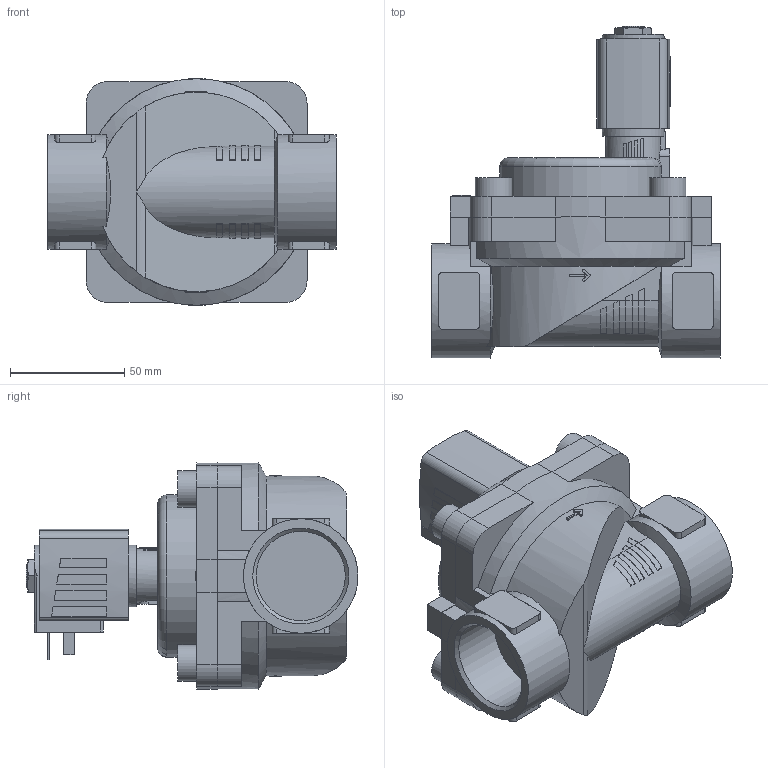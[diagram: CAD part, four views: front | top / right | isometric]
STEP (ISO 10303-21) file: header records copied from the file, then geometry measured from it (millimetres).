
FILE_DESCRIPTION(/* description */ ('STEP AP214'),/* implementation_level */ '2;1');
FILE_NAME(/* name */ '6281-334957-2_2-Way_Solenoid_Valve__Servo-assisted__General_Purpose',/* time_stamp */ '2024-07-02T10:52:22+02:00',/* author */ ('License CC BY-ND 4.0'),/* organization */ ('CADENAS'),/* preprocessor_version */ 'ST-DEVELOPER v19.3',/* originating_system */ 'PARTsolutions',/* authorisation */ ' ');
FILE_SCHEMA (('AUTOMOTIVE_DESIGN {1 0 10303 214 3 1 1}'));
Length unit declared in the file: millimetre
Products named in the file (4): 6281-334957-2/2-Way Solenoid Valve, Servo-assisted, General Purpose; 5281ev400MS2/2-Wege-Magnetventil mit Servomembran-Deckel 99 ; 6213-40G1_1/4MS-Gehaeuse-; AC10ex-5NA38-Plan-Coil
Assembly tree (3 placements, depth 2):
  6281-334957-2/2-Way Solenoid Valve, Servo-assisted, General Purpose
    5281ev400MS2/2-Wege-Magnetventil mit Servomembran-Deckel 99 
    6213-40G1_1/4MS-Gehaeuse-
    AC10ex-5NA38-Plan-Coil
Bounding box: 126 x 145 x 99 mm (x, y, z)
Volume: 591767 mm3; surface area: 85961.9 mm2
Topology: 3 solids, 3 shells, 348 faces, 915 edges, 605 vertices
Faces by surface type: plane 239, cylinder 93, cone 15, torus 1
Full cylindrical faces by diameter (mm): 2.013 x1, 9.74 x1, 16 x4, 27 x1, 38.952 x2, 50 x2
Entity records: 12007 total; most frequent: CARTESIAN_POINT 2124, ORIENTED_EDGE 1784, DIRECTION 1774, EDGE_CURVE 892, AXIS2_PLACEMENT_3D 604, VERTEX_POINT 597, LINE 566, VECTOR 566
